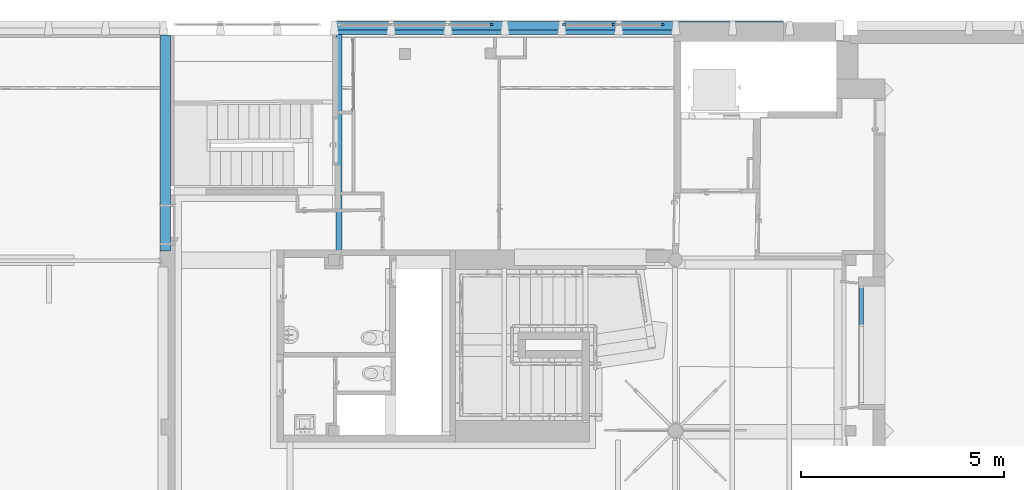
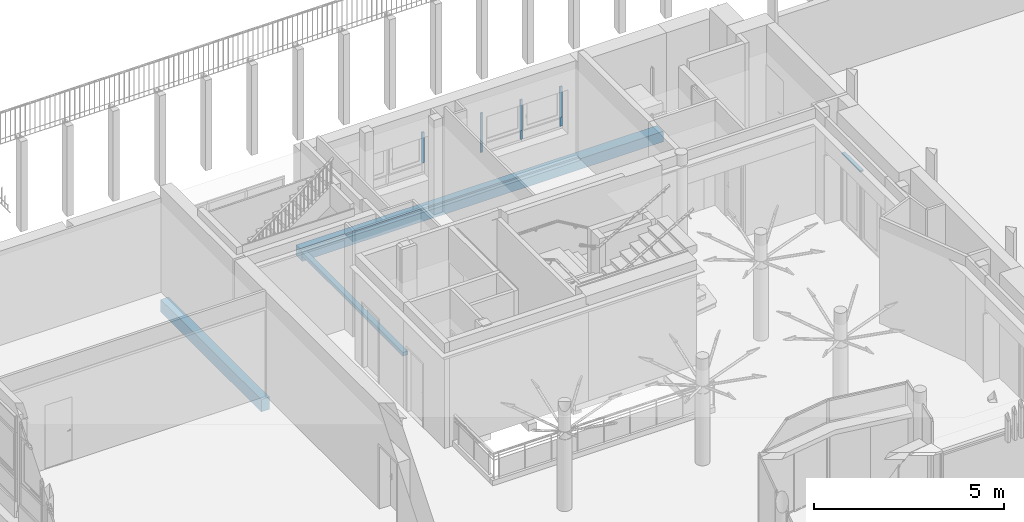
# One storey, part 14 of 65: 8 members, 3 beams, 3 elements without a shape of their own.
"""IFC4 building model written with IfcOpenShell, lengths in metres."""

from ifc_helpers import new_model, entity, si_unit, converted_unit, derived_unit, direction, frame, origin, place, context, subcontext, project, spatial, indexed_curve, outline, extrude, polygons, source, transform, mapped, material, type_object, type_shapes, element, aggregate, save


model = new_model("IFC4")

# Units and contexts
model_context = context("Model", 3, precision=1e-05, world=origin(), true_north=direction((6.12303176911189e-17, 1.0)))
body_context = subcontext(model_context, "Body", "Model", "MODEL_VIEW")
ifc_project = project(units=[si_unit("LENGTHUNIT", "METRE"), si_unit("AREAUNIT", "SQUARE_METRE"), si_unit("VOLUMEUNIT", "CUBIC_METRE"), converted_unit("PLANEANGLEUNIT", "DEGREE", entity("IfcRatioMeasure", 0.0174532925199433), si_unit("PLANEANGLEUNIT", "RADIAN"), dimensions=[0, 0, 0, 0, 0, 0, 0]), si_unit("MASSUNIT", "GRAM", prefix="KILO"), derived_unit("MASSDENSITYUNIT", [(si_unit("MASSUNIT", "GRAM", prefix="KILO"), 1), (si_unit("LENGTHUNIT", "METRE"), -3)]), derived_unit("MOMENTOFINERTIAUNIT", [(si_unit("LENGTHUNIT", "METRE"), 4)]), si_unit("TIMEUNIT", "SECOND"), si_unit("FREQUENCYUNIT", "HERTZ"), si_unit("THERMODYNAMICTEMPERATUREUNIT", "DEGREE_CELSIUS"), derived_unit("THERMALTRANSMITTANCEUNIT", [(si_unit("MASSUNIT", "GRAM", prefix="KILO"), 1), (si_unit("THERMODYNAMICTEMPERATUREUNIT", "KELVIN"), -1), (si_unit("TIMEUNIT", "SECOND"), -3)]), derived_unit("VOLUMETRICFLOWRATEUNIT", [(si_unit("LENGTHUNIT", "METRE"), 3), (si_unit("TIMEUNIT", "SECOND"), -1)]), si_unit("ELECTRICCURRENTUNIT", "AMPERE"), si_unit("ELECTRICVOLTAGEUNIT", "VOLT"), si_unit("POWERUNIT", "WATT"), si_unit("FORCEUNIT", "NEWTON", prefix="KILO"), si_unit("ILLUMINANCEUNIT", "LUX"), si_unit("LUMINOUSFLUXUNIT", "LUMEN"), si_unit("LUMINOUSINTENSITYUNIT", "CANDELA"), derived_unit("USERDEFINED", [(si_unit("MASSUNIT", "GRAM", prefix="KILO"), -1), (si_unit("LENGTHUNIT", "METRE"), -2), (si_unit("TIMEUNIT", "SECOND"), 3), (si_unit("LUMINOUSFLUXUNIT", "LUMEN"), 1)]), derived_unit("LINEARVELOCITYUNIT", [(si_unit("LENGTHUNIT", "METRE"), 1), (si_unit("TIMEUNIT", "SECOND"), -1)]), si_unit("PRESSUREUNIT", "PASCAL"), derived_unit("USERDEFINED", [(si_unit("LENGTHUNIT", "METRE"), -2), (si_unit("MASSUNIT", "GRAM", prefix="KILO"), 1), (si_unit("TIMEUNIT", "SECOND"), -2)]), derived_unit("LINEARFORCEUNIT", [(si_unit("MASSUNIT", "GRAM", prefix="KILO"), 1), (si_unit("LENGTHUNIT", "METRE"), 1), (si_unit("TIMEUNIT", "SECOND"), -2), (si_unit("LENGTHUNIT", "METRE"), -1)]), derived_unit("PLANARFORCEUNIT", [(si_unit("MASSUNIT", "GRAM", prefix="KILO"), 1), (si_unit("LENGTHUNIT", "METRE"), 1), (si_unit("TIMEUNIT", "SECOND"), -2), (si_unit("LENGTHUNIT", "METRE"), -2)])], contexts=[model_context])

# Site, building, storey
site_placement = place(None, origin())
site = spatial("IfcSite", under=ifc_project, at=site_placement, Name="Default", CompositionType="ELEMENT")
building_placement = place(site_placement, origin())
building = spatial("IfcBuilding", under=site, at=building_placement, Name="HOTEL CONSULAIRE BOULOGNE SUR MER", CompositionType="ELEMENT")
storey_placement = place(building_placement, origin())
storey = spatial("IfcBuildingStorey", under=building, at=storey_placement, Name="Niveau 0", CompositionType="ELEMENT", Elevation=1.31981936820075e-13)

# Curtain wall, member
curtain_wall_type = type_object("IfcCurtainWallType", Name="Mur-rideau:Simple panneau", PredefinedType="NOTDEFINED")
curtain_wall_1_placement = place(storey_placement, origin())
curtain_wall_1 = element("IfcCurtainWall", 1, at=curtain_wall_1_placement, inside=storey, type_object=curtain_wall_type, Name="Mur-rideau:Simple panneau", ObjectType="Mur-rideau:Simple panneau", PredefinedType="NOTDEFINED")
ifc_material_1 = material(Name="PVC, souple", Category="Plastique")
member_type_1 = type_object("IfcMemberType", Name="Meneau rectangulaire:100 x 25mm", PredefinedType="MULLION", material=ifc_material_1)
shared_shape_1 = source(origin(), body_context, "Body", "SweptSolid", [
    extrude(outline(indexed_curve([(-0.05, -0.025), (0.05, -0.025), (0.05, 0.025), (-0.05, 0.025), (-0.05, -0.025)], self_intersect=False)), frame((-0.025, 0.0, -0.970953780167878), z_axis=(0.0, 0.0, 1.0), x_axis=(0.0, -1.0, 0.0)), (0.0, 0.0, 1.0), 0.970953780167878),
])
type_shapes(member_type_1, [shared_shape_1])
member_1_placement = place(storey_placement, frame((11.7425810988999, -17.2254433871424, 2.1879150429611), z_axis=(0.0, -1.0, 0.0), x_axis=(0.0, 0.0, 1.0)))
member_1 = element("IfcMember", 2, at=member_1_placement, type_object=member_type_1, material=ifc_material_1, Name="Meneau rectangulaire:100 x 25mm", ObjectType="Meneau rectangulaire:100 x 25mm", PredefinedType="MULLION", context=body_context, shape_type="MappedRepresentation", body=[
    mapped(shared_shape_1, transform((0.0, 0.0, 0.0), scale=1.0)),
])
aggregate(curtain_wall_1, [member_1])

# Beam
ifc_material_2 = material(Name="Béton - Béton coulé sur place", Category="Béton")
beam_type_1 = type_object("IfcBeamType", Name="Poutre rectangulaire - Béton:320x340", PredefinedType="BEAM", material=ifc_material_2)
shared_shape_2 = source(origin(), body_context, "Body", "Tessellation", [
    polygons([(10.9964047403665, -2.16573425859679e-15, 0.34), (10.9964047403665, -2.16573425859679e-15, 0.0), (10.9964047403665, 0.160308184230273, 0.0), (10.9964047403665, 0.319999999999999, 0.0), (10.9964047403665, 0.319999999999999, 0.34), (8.47996093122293, 0.0, 0.34), (8.47996093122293, 0.0, 0.290000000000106), (8.37996093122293, 0.0, 0.290000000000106), (5.63355716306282, 2.16573425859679e-15, 0.290000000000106), (0.145404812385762, 6.49720277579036e-15, 0.290000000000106), (0.0415571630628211, 6.49720277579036e-15, 0.290000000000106), (0.0, 6.49720277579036e-15, 0.290000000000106), (0.0, 6.49720277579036e-15, 0.170000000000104), (0.0, 6.49720277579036e-15, 0.0), (1.21255716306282, 4.33146851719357e-15, 0.0), (1.35555716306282, 4.33146851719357e-15, 0.0), (2.54555716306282, 4.33146851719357e-15, 0.0), (2.68855716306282, 4.33146851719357e-15, 0.0), (3.87855716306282, 4.33146851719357e-15, 0.0), (4.33160473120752, 2.16573425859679e-15, 0.0), (5.52160473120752, 2.16573425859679e-15, 0.0), (5.63355716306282, 2.16573425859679e-15, 0.0), (5.67751020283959, 2.16573425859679e-15, 0.0), (6.79751020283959, 0.0, 0.0), (6.95451020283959, 0.0, 0.0), (8.07451020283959, 0.0, 0.0), (8.37996093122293, 0.0, 0.0), (0.0, 0.320000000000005, 0.0), (0.0, 0.320000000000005, 0.34), (0.0, 0.109308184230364, 0.34), (8.47996093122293, 0.109308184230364, 0.34), (0.0, 0.0125612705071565, 0.290000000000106), (0.0, 0.109308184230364, 0.290000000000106), (8.47996093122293, 0.109308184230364, 0.290000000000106)], [[[5, 1, 2, 3, 4]], [[1, 6, 7, 8, 9, 10, 11, 12, 13, 14, 15, 16, 17, 18, 19, 20, 21, 22, 23, 24, 25, 26, 27, 2]], [[30, 33, 34, 31]], [[3, 2, 27, 26, 25, 24, 23, 22, 21, 20, 19, 18, 17, 16, 15, 14, 28, 4]], [[5, 4, 28, 29]], [[6, 1, 5, 29, 30, 31]], [[11, 10, 9, 8, 7, 34, 33, 32, 12]], [[28, 14, 13, 12, 32, 33, 30, 29]], [[31, 34, 7, 6]]], closed=True),
])
type_shapes(beam_type_1, [shared_shape_2])
beam_1_placement = place(storey_placement, frame((-1.17098066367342, -10.0746323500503, -0.560000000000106)))
element("IfcBeam", 3, at=beam_1_placement, inside=storey, type_object=beam_type_1, material=ifc_material_2, Name="Poutre rectangulaire - Béton:320x340", ObjectType="Poutre rectangulaire - Béton:320x340", PredefinedType="BEAM", context=body_context, shape_type="MappedRepresentation", body=[
    mapped(shared_shape_2, transform((0.0, 0.0, 0.0), scale=1.0)),
])

# Curtain wall, members
curtain_wall_2_placement = place(storey_placement, origin())
curtain_wall_2 = element("IfcCurtainWall", 4, at=curtain_wall_2_placement, inside=storey, type_object=curtain_wall_type, Name="Mur-rideau:Simple panneau", ObjectType="Mur-rideau:Simple panneau", PredefinedType="NOTDEFINED")
ifc_material_3 = material(Name="PVC - Blanc", Category="Plastique")
member_type_2 = type_object("IfcMemberType", Name="Meneau rectangulaire:50 x 35", PredefinedType="MULLION", material=ifc_material_3)
shared_shape_3 = source(origin(), body_context, "Body", "SweptSolid", [
    extrude(outline(indexed_curve([(-0.025, -0.035), (0.025, -0.035), (0.025, 0.035), (-0.025, 0.035), (-0.025, -0.035)], self_intersect=False)), frame((-0.035, -0.025, -0.98326605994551), z_axis=(0.0, 0.0, 1.0), x_axis=(0.0, -1.0, 0.0)), (0.0, 0.0, 1.0), 0.98326605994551),
])
type_shapes(member_type_2, [shared_shape_3])
member_2_placement = place(storey_placement, frame((4.3985764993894, -9.84674446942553, 2.12099999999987), z_axis=(0.0, 0.0, 1.0), x_axis=(-1.0, 0.0, 0.0)))
member_2 = element("IfcMember", 5, at=member_2_placement, type_object=member_type_2, material=ifc_material_3, Name="Meneau rectangulaire:50 x 35", ObjectType="Meneau rectangulaire:50 x 35", PredefinedType="MULLION", context=body_context, shape_type="MappedRepresentation", body=[
    mapped(shared_shape_3, transform((0.0, 0.0, 0.0), scale=1.0)),
])
member_type_3 = type_object("IfcMemberType", Name="Meneau rectangulaire:50 x 35", PredefinedType="MULLION", material=ifc_material_3)
shared_shape_4 = source(origin(), body_context, "Body", "SweptSolid", [
    extrude(outline(indexed_curve([(-0.025, -0.035), (0.025, -0.035), (0.025, 0.035), (-0.025, 0.035), (-0.025, -0.035)], self_intersect=False)), frame((-0.035, -0.025, -0.288), z_axis=(0.0, 0.0, 1.0), x_axis=(0.0, -1.0, 0.0)), (0.0, 0.0, 1.0), 0.288),
])
type_shapes(member_type_3, [shared_shape_4])
member_3_placement = place(storey_placement, frame((6.8835764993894, -9.84674446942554, 0.849733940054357), z_axis=(0.0, 0.0, -1.0), x_axis=(1.0, 0.0, 0.0)))
member_3 = element("IfcMember", 6, at=member_3_placement, type_object=member_type_3, material=ifc_material_3, Name="Meneau rectangulaire:50 x 35", ObjectType="Meneau rectangulaire:50 x 35", PredefinedType="MULLION", context=body_context, shape_type="MappedRepresentation", body=[
    mapped(shared_shape_4, transform((0.0, 0.0, 0.0), scale=1.0)),
])
member_type_4 = type_object("IfcMemberType", Name="Meneau rectangulaire:50 x 35", PredefinedType="MULLION", material=ifc_material_3)
shared_shape_5 = source(origin(), body_context, "Body", "SweptSolid", [
    extrude(outline(indexed_curve([(-0.025, -0.035), (0.025, -0.035), (0.025, 0.035), (-0.025, 0.035), (-0.025, -0.035)], self_intersect=False)), frame((0.0, -0.025, -0.288), z_axis=(0.0, 0.0, 1.0), x_axis=(0.0, -1.0, 0.0)), (0.0, 0.0, 1.0), 0.288),
])
type_shapes(member_type_4, [shared_shape_5])
member_4_placement = place(storey_placement, frame((5.6410764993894, -9.84674446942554, 0.849733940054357), z_axis=(0.0, 0.0, -1.0), x_axis=(1.0, 0.0, 0.0)))
member_4 = element("IfcMember", 7, at=member_4_placement, type_object=member_type_4, material=ifc_material_3, Name="Meneau rectangulaire:50 x 35", ObjectType="Meneau rectangulaire:50 x 35", PredefinedType="MULLION", context=body_context, shape_type="MappedRepresentation", body=[
    mapped(shared_shape_5, transform((0.0, 0.0, 0.0), scale=1.0)),
])

# Curtain wall, member
curtain_wall_3_placement = place(storey_placement, origin())
curtain_wall_3 = element("IfcCurtainWall", 8, at=curtain_wall_3_placement, inside=storey, type_object=curtain_wall_type, Name="Mur-rideau:Simple panneau", ObjectType="Mur-rideau:Simple panneau", PredefinedType="NOTDEFINED")
member_type_5 = type_object("IfcMemberType", Name="Meneau rectangulaire:50 x 35", PredefinedType="MULLION", material=ifc_material_3)
shared_shape_6 = source(origin(), body_context, "Body", "SweptSolid", [
    extrude(outline(indexed_curve([(-0.025, -0.035), (0.025, -0.035), (0.025, 0.035), (-0.025, 0.035), (-0.025, -0.035)], self_intersect=False)), frame((-0.035, -0.025, -0.98326605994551), z_axis=(0.0, 0.0, 1.0), x_axis=(0.0, -1.0, 0.0)), (0.0, 0.0, 1.0), 0.98326605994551),
])
type_shapes(member_type_5, [shared_shape_6])
member_5_placement = place(storey_placement, frame((2.6818649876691, -9.84674446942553, 1.13773394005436), z_axis=(0.0, 0.0, -1.0), x_axis=(1.0, 0.0, 0.0)))
member_5 = element("IfcMember", 9, at=member_5_placement, type_object=member_type_5, material=ifc_material_3, Name="Meneau rectangulaire:50 x 35", ObjectType="Meneau rectangulaire:50 x 35", PredefinedType="MULLION", context=body_context, shape_type="MappedRepresentation", body=[
    mapped(shared_shape_6, transform((0.0, 0.0, 0.0), scale=1.0)),
])
aggregate(curtain_wall_3, [member_5])

# Member
member_6_placement = place(storey_placement, frame((6.8835764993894, -9.84674446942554, 1.13773394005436), z_axis=(0.0, 0.0, -1.0), x_axis=(1.0, 0.0, 0.0)))
member_6 = element("IfcMember", 10, at=member_6_placement, type_object=member_type_5, material=ifc_material_3, Name="Meneau rectangulaire:50 x 35", ObjectType="Meneau rectangulaire:50 x 35", PredefinedType="MULLION", context=body_context, shape_type="MappedRepresentation", body=[
    mapped(shared_shape_6, transform((0.0, 0.0, 0.0), scale=1.0)),
])

member_type_6 = type_object("IfcMemberType", Name="Meneau rectangulaire:50 x 35", PredefinedType="MULLION", material=ifc_material_3)
shared_shape_7 = source(origin(), body_context, "Body", "SweptSolid", [
    extrude(outline(indexed_curve([(-0.025, -0.035), (0.025, -0.035), (0.025, 0.035), (-0.025, 0.035), (-0.025, -0.035)], self_intersect=False)), frame((-0.035, -0.025, -0.288), z_axis=(0.0, 0.0, 1.0), x_axis=(0.0, -1.0, 0.0)), (0.0, 0.0, 1.0), 0.288),
])
type_shapes(member_type_6, [shared_shape_7])
member_7_placement = place(storey_placement, frame((4.3985764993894, -9.84674446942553, 1.13773394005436), z_axis=(0.0, 0.0, 1.0), x_axis=(-1.0, 0.0, 0.0)))
member_7 = element("IfcMember", 11, at=member_7_placement, type_object=member_type_6, material=ifc_material_3, Name="Meneau rectangulaire:50 x 35", ObjectType="Meneau rectangulaire:50 x 35", PredefinedType="MULLION", context=body_context, shape_type="MappedRepresentation", body=[
    mapped(shared_shape_7, transform((0.0, 0.0, 0.0), scale=1.0)),
])

member_type_7 = type_object("IfcMemberType", Name="Meneau rectangulaire:50 x 35", PredefinedType="MULLION", material=ifc_material_3)
shared_shape_8 = source(origin(), body_context, "Body", "SweptSolid", [
    extrude(outline(indexed_curve([(-0.025, -0.035), (0.025, -0.035), (0.025, 0.035), (-0.025, 0.035), (-0.025, -0.035)], self_intersect=False)), frame((0.0, -0.025, -0.98326605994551), z_axis=(0.0, 0.0, 1.0), x_axis=(0.0, -1.0, 0.0)), (0.0, 0.0, 1.0), 0.98326605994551),
])
type_shapes(member_type_7, [shared_shape_8])
member_8_placement = place(storey_placement, frame((5.6410764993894, -9.84674446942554, 1.13773394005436), z_axis=(0.0, 0.0, -1.0), x_axis=(1.0, 0.0, 0.0)))
member_8 = element("IfcMember", 12, at=member_8_placement, type_object=member_type_7, material=ifc_material_3, Name="Meneau rectangulaire:50 x 35", ObjectType="Meneau rectangulaire:50 x 35", PredefinedType="MULLION", context=body_context, shape_type="MappedRepresentation", body=[
    mapped(shared_shape_8, transform((0.0, 0.0, 0.0), scale=1.0)),
])

aggregate(curtain_wall_2, [member_2, member_3, member_6, member_7, member_8, member_4])

# Beams
beam_type_2 = type_object("IfcBeamType", Name="Poutre rectangulaire - Béton:250X400", PredefinedType="BEAM", material=ifc_material_2)
shared_shape_9 = source(origin(), body_context, "Body", "Tessellation", [
    polygons([(0.0, 0.0, 0.4), (0.0, 0.0, 0.0), (0.0148293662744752, 0.0, 0.0), (0.0148293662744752, 0.0, 0.4), (0.25000000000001, 5.32301696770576, 0.0), (0.25000000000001, 5.32301696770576, 0.4), (0.250000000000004, 1.53673515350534, 0.4), (0.250000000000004, 1.50931619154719, 0.4), (0.250000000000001, 0.0619552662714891, 0.4), (0.250000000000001, 0.0123830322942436, 0.4), (0.250000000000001, 0.0123830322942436, 0.0), (0.250000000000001, 0.0619552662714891, -1.35358391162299e-16), (0.250000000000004, 1.50931619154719, -1.35358391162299e-16), (1.08286712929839e-15, 0.0123830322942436, 0.0), (3.24860138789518e-15, 1.50931619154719, 0.0), (1.08286712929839e-14, 5.32301696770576, 0.0), (0.0283489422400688, 0.0123830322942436, 0.0), (0.0148293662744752, 0.0123830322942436, 0.0), (1.08286712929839e-15, 0.0123830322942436, 0.4), (4.33146851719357e-15, 1.50931619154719, 0.4), (1.08286712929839e-14, 5.32301696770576, 0.4), (0.0148293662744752, 0.0123830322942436, 0.4), (0.17056433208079, 5.32301696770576, 0.4)], [[[2, 3, 4, 1]], [[17, 11, 10, 22, 18]], [[13, 5, 6, 7, 8, 9, 10, 11, 12]], [[18, 22, 4, 3]], [[16, 5, 13, 12, 11, 17, 18, 3, 2, 14, 15]], [[16, 15, 14, 2, 1, 19, 20, 21]], [[23, 21, 20, 19, 1, 4, 22, 10, 9, 8, 7, 6]], [[5, 16, 21, 23, 6]]], closed=True),
])
type_shapes(beam_type_2, [shared_shape_9])
beam_2_placement = place(storey_placement, frame((-5.49033751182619, -15.407649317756, -0.670000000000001)))
element("IfcBeam", 13, at=beam_2_placement, inside=storey, type_object=beam_type_2, material=ifc_material_2, Name="Poutre rectangulaire - Béton:250X400", ObjectType="Poutre rectangulaire - Béton:250X400", PredefinedType="BEAM", context=body_context, shape_type="MappedRepresentation", body=[
    mapped(shared_shape_9, transform((0.0, 0.0, 0.0), scale=1.0)),
])
beam_type_3 = type_object("IfcBeamType", Name="Poutre rectangulaire - Béton:150x120", PredefinedType="BEAM", material=ifc_material_2)
shared_shape_10 = source(origin(), body_context, "Body", "Tessellation", [
    polygons([(8.66293703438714e-15, 5.32883872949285, 0.0), (8.66293703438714e-15, 5.32883872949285, 0.12), (0.0045951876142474, 5.32883872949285, 0.12), (0.0045951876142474, 5.32883872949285, 0.0), (0.15, 0.0, 0.12), (0.15, 0.0, 4.06075173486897e-16), (0.15, 0.0452157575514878, 3.38395977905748e-16), (0.150000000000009, 5.31627745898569, 0.0), (0.150000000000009, 5.3162774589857, 0.12), (0.15, 0.0452157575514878, 0.12), (-1.35358391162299e-16, 0.0, 4.06075173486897e-16), (0.0, 0.0452157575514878, 4.06075173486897e-16), (2.43645104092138e-15, 1.59257668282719, 2.70716782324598e-16), (0.0045951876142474, 5.31627745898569, 0.0), (-1.35358391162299e-16, 0.0, 0.12), (0.0, 0.0452157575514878, 0.12), (2.57180943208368e-15, 1.59257668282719, 0.12), (0.0045951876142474, 5.3162774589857, 0.12)], [[[2, 3, 4, 1]], [[14, 18, 9, 8]], [[8, 9, 10, 5, 6, 7]], [[14, 4, 3, 18]], [[14, 8, 7, 6, 11, 12, 13, 1, 4]], [[1, 13, 12, 11, 15, 16, 17, 2]], [[3, 2, 17, 16, 15, 5, 10, 9, 18]], [[5, 15, 11, 6]]], closed=True),
])
type_shapes(beam_type_3, [shared_shape_10])
beam_3_placement = place(storey_placement, frame((-1.17557585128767, -15.390909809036, -0.390000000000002)))
element("IfcBeam", 14, at=beam_3_placement, inside=storey, type_object=beam_type_3, material=ifc_material_2, Name="Poutre rectangulaire - Béton:150x120", ObjectType="Poutre rectangulaire - Béton:150x120", PredefinedType="BEAM", context=body_context, shape_type="MappedRepresentation", body=[
    mapped(shared_shape_10, transform((0.0, 0.0, 0.0), scale=1.0)),
])

save(model, "model.ifc")
